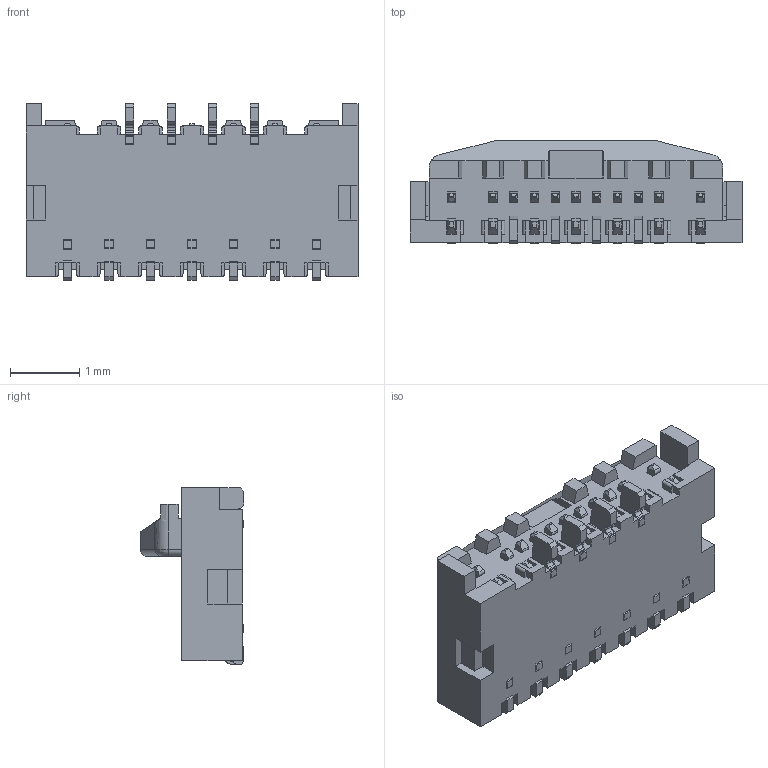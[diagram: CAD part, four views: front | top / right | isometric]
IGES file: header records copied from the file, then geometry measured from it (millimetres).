
Start section: SolidWorks IGES file using analytic representation for surfaces
Global section: file name: C:\Users\83197\OneDrive - I-PEX\デスクトップ\Exported\20599-009E-01C LK TYPE ACT OPEN IGES R1 ALL.IGS; native system: SolidWorks 2023; preprocessor: SolidWorks 2023; author: 83197; date: 251117.134310; units: millimetre
Bounding box: 4.8 x 1.5 x 2.55 mm (x, y, z)
Surface area: 47.5 mm2 (no closed solid volume)
Topology: 0 solids, 0 shells, 688 faces, 4120 edges, 4118 vertices
Faces by surface type: bspline 577, revolution 111
